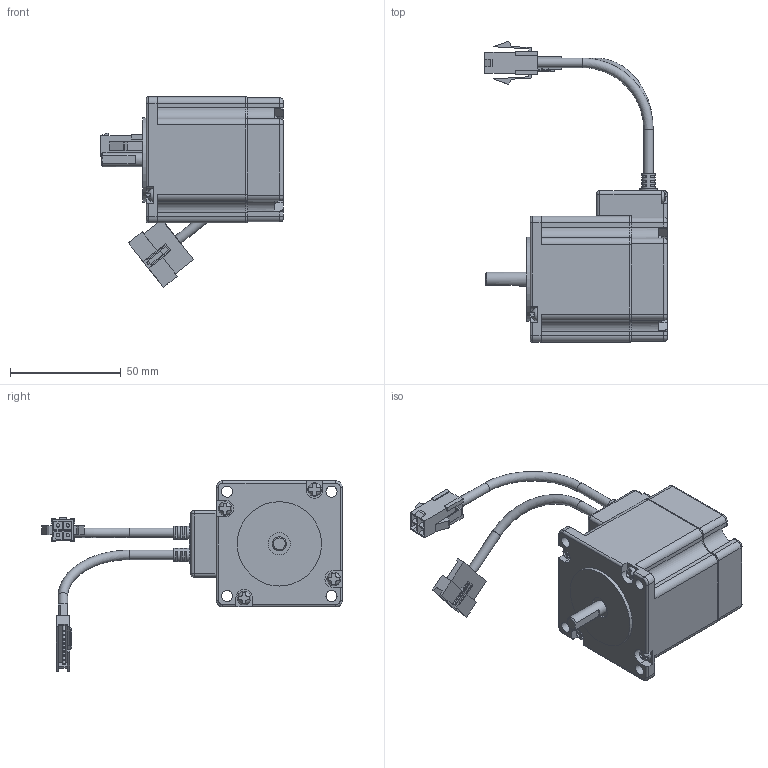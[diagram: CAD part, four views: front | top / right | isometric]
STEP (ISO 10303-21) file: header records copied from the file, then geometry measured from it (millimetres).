
FILE_DESCRIPTION(/* description */ (''),/* implementation_level */ '2;1');
FILE_NAME(/* name */ '\\EMN0D5F01\rp_inventor\RP Mechanical Design\Wiley\Updated Models\eCLM-P231A.stp',/* time_stamp */ '2016-10-27T15:14:36-07:00',/* author */ ('JDB'),/* organization */ ('Parker Hannifin Corp'),/* preprocessor_version */ 'ST-DEVELOPER v15.2',/* originating_system */ 'Autodesk Inventor 2014',/* authorisation */ '');
FILE_SCHEMA (('CONFIG_CONTROL_DESIGN'));
Length unit declared in the file: inch
Products named in the file (1): eCLM-P231A_sw
Bounding box: 82.5 x 135.91 x 86.05 mm (x, y, z)
Volume: 156651.5 mm3; surface area: 42132.4 mm2
Topology: 3 solids, 3 shells, 774 faces, 2006 edges, 1294 vertices
Faces by surface type: plane 506, cylinder 170, cone 42, torus 30, bspline 14, sphere 12
Full cylindrical faces by diameter (mm): 1 x9, 1.5 x4, 1.6 x4, 2.4 x3, 3 x4, 3.4 x4, 4.3 x4, 5 x4, 6 x4, 6.35 x2, 8 x1, 10 x1, 38.1 x1
Entity records: 23426 total; most frequent: CARTESIAN_POINT 4652, DIRECTION 3959, ORIENTED_EDGE 3788, EDGE_CURVE 1892, AXIS2_PLACEMENT_3D 1391, VERTEX_POINT 1259, LINE 1177, VECTOR 1177
